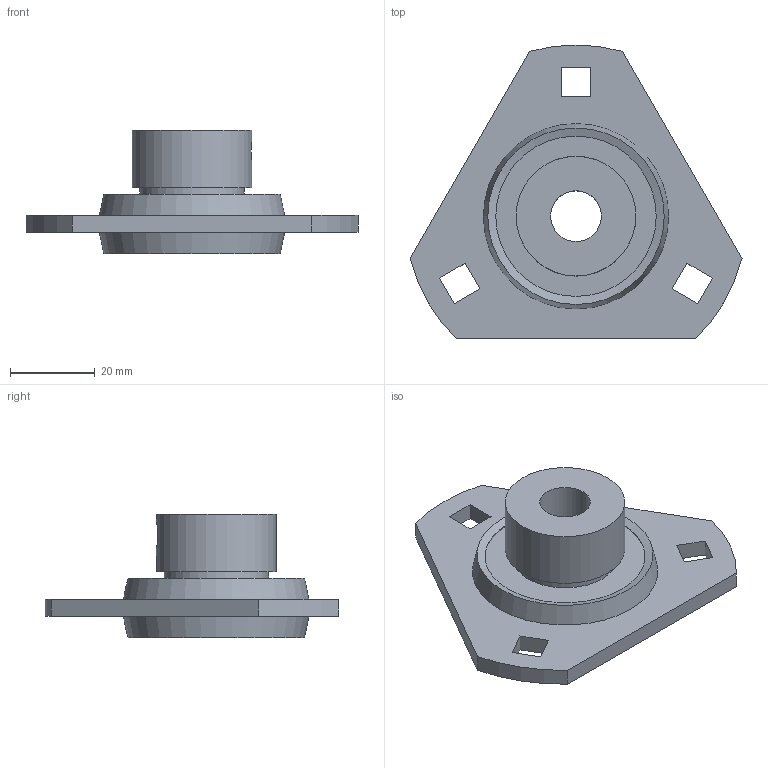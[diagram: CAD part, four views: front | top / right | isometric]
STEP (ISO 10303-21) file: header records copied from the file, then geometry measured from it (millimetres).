
FILE_DESCRIPTION((''),'2;1');
FILE_NAME('\\Ts-tgl068\j-cad-d-base\00.3DCADデータ作成フォルダ\02.フランジ形\KHPFT\KHPFT201A.stp','2014-04-24T10:28:27',('btec_1106_2'),(''),'Autodesk Inventor 2012','Autodesk Inventor 2012','');
FILE_SCHEMA(('AUTOMOTIVE_DESIGN { 1 0 10303 214 1 1 1 1 }'));
Length unit declared in the file: millimetre
Products named in the file (3): KHPFT200A; PFT3; KH201GA
Assembly tree (2 placements, depth 2):
  KHPFT200A
    PFT3
    KH201GA
Bounding box: 78.5 x 69.5 x 29.1 mm (x, y, z)
Volume: 33291 mm3; surface area: 15593.7 mm2
Topology: 2 solids, 2 shells, 48 faces, 120 edges, 80 vertices
Faces by surface type: plane 30, cylinder 9, sphere 4, cone 4, torus 1
Full cylindrical faces by diameter (mm): 4.8 x1, 6 x1, 12 x1, 22.35 x1, 24.7 x1, 28.3 x1
Entity records: 1433 total; most frequent: CARTESIAN_POINT 287, DIRECTION 224, ORIENTED_EDGE 190, EDGE_CURVE 95, AXIS2_PLACEMENT_3D 79, EDGE_LOOP 78, VERTEX_POINT 71, VECTOR 66
